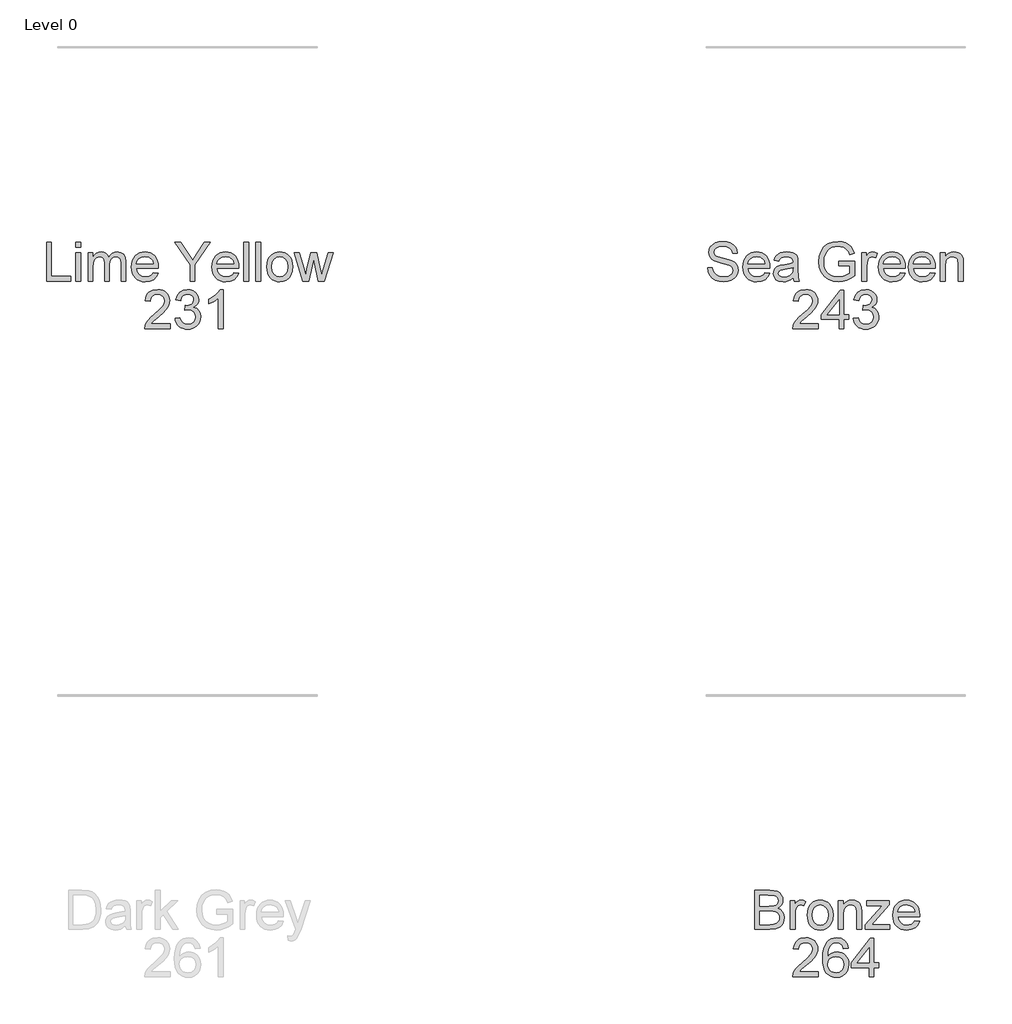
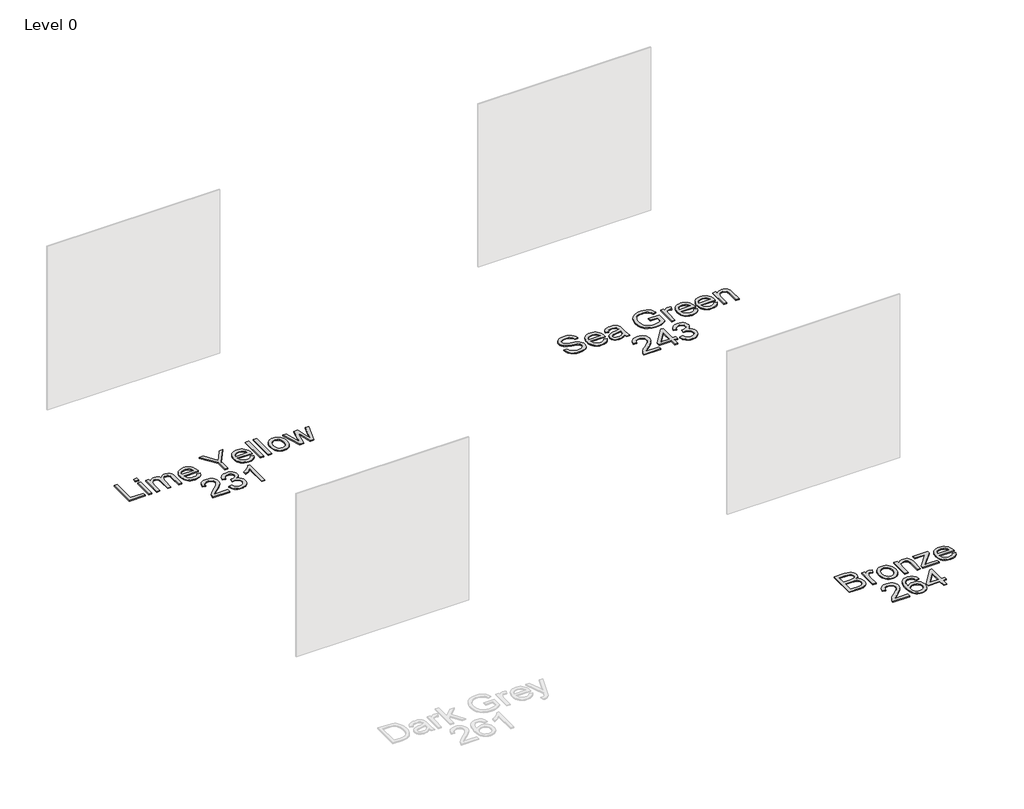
# One storey, part 3 of 15: 3 proxies.
"""IFC4 building model written with IfcOpenShell, lengths in millimetres."""

from ifc_helpers import new_model, si_unit, origin, origin_with_axes, place, context, project, spatial, polyline, outline, extrude, element, save

model = new_model("IFC4")

# Units and contexts
model_context = context("Model", 3, world=origin())
ifc_project = project(units=[si_unit("LENGTHUNIT", "METRE", prefix="MILLI")], contexts=[model_context])

# Site, building, storey
site = spatial("IfcSite", under=ifc_project)
building = spatial("IfcBuilding", under=site)
storey = spatial("IfcBuildingStorey", under=building, Name="Level 0", Elevation=0.0)

# Proxies
placement = place(None, origin())
element("IfcBuildingElementProxy", 1, Name="300mm Arial", ObjectType="300mm Arial", at=placement, inside=storey, context=model_context, shape_type="SweptSolid", body=[
    extrude(outline(polyline([(-10538.4115396, -27011.9454346), (-10538.4115396, -26710.5765041), (-10500.7404233, -26710.5765041), (-10500.7404233, -26974.2743182), (-10350.0559581, -26974.2743182), (-10350.0559581, -27011.9454346), (-10538.4115396, -27011.9454346)])), origin_with_axes(), (0.0, 0.0, 1.0), 10.0),
    extrude(outline(polyline([(-10312.3848418, -27011.9454346), (-10312.3848418, -26790.6276263), (-10274.7137255, -26790.6276263), (-10274.7137255, -27011.9454346), (-10312.3848418, -27011.9454346)])), origin_with_axes(), (0.0, 0.0, 1.0), 10.0),
    extrude(outline(polyline([(-10312.3848418, -26748.2476204), (-10312.3848418, -26710.5765041), (-10274.7137255, -26710.5765041), (-10274.7137255, -26748.2476204), (-10312.3848418, -26748.2476204)])), origin_with_axes(), (0.0, 0.0, 1.0), 10.0),
    extrude(outline(polyline([(-10218.207051, -27011.9454346), (-10218.207051, -26790.6276263), (-10180.5359347, -26790.6276263), (-10180.5359347, -26827.0479438), (-10169.2051693, -26810.31851), (-10154.6370423, -26797.212714), (-10137.3281944, -26788.742231), (-10117.7752664, -26785.9187367), (-10096.8243867, -26788.7974133), (-10080.0305737, -26797.4334432), (-10067.4857976, -26811.2566091), (-10059.2820291, -26829.6966941), (-10045.5508337, -26810.5438378), (-10029.8882577, -26796.8632261), (-10012.2943013, -26788.6548591), (-9992.7689644, -26785.9187367), (-9964.4512478, -26790.4712764), (-9943.5095652, -26804.1288955), (-9930.5693161, -26827.2594759), (-9926.2558997, -26860.2308997), (-9926.2558997, -27011.9454346), (-9963.927016, -27011.9454346), (-9963.927016, -26876.4177075), (-9967.4218949, -26844.9637969), (-9972.3331196, -26836.2909789), (-9980.0770356, -26829.4759649), (-9990.0374406, -26825.061381), (-10001.5981323, -26823.589853), (-10022.006386, -26827.3606435), (-10038.6438492, -26838.6730148), (-10049.7079002, -26858.2995193), (-10053.3959172, -26887.012709), (-10053.3959172, -27011.9454346), (-10091.0670335, -27011.9454346), (-10091.0670335, -26872.2238528), (-10093.2467343, -26850.9234853), (-10099.7858368, -26835.7299589), (-10111.2913462, -26826.6248795), (-10128.3702678, -26823.589853), (-10142.8832125, -26825.613204), (-10156.2557231, -26831.6832569), (-10167.2921829, -26841.652859), (-10174.7969756, -26855.3748574), (-10179.101195, -26874.4127507), (-10180.5359347, -26900.3300372), (-10180.5359347, -27011.9454346), (-10218.207051, -27011.9454346)])), origin_with_axes(), (0.0, 0.0, 1.0), 10.0),
    extrude(outline(polyline([(-9714.7973288, -26946.020981), (-9677.8619765, -26950.7298706), (-9691.1701077, -26978.5601435), (-9712.4060959, -26999.3638703), (-9741.0916944, -27012.3317106), (-9776.7486568, -27016.6543241), (-9800.1229591, -27014.7896222), (-9820.9496786, -27009.1955166), (-9839.2288152, -26999.8720073), (-9854.960369, -26986.8190943), (-9867.6109111, -26970.400061), (-9876.6470126, -26950.9781909), (-9882.0686735, -26928.553484), (-9883.8758938, -26903.1259404), (-9882.0502794, -26876.8361733), (-9876.5734362, -26853.6642061), (-9867.4453642, -26833.6100389), (-9854.6660634, -26816.6736715), (-9838.9758963, -26803.2183875), (-9821.1152255, -26793.6074704), (-9801.0840508, -26787.8409201), (-9778.8823724, -26785.9187367), (-9757.3957646, -26787.8363216), (-9737.9646975, -26793.5890763), (-9720.589171, -26803.1770008), (-9705.2691852, -26816.6000951), (-9692.7634966, -26833.4996743), (-9683.8308619, -26853.5170533), (-9678.4712811, -26876.6522323), (-9676.6847541, -26902.9052112), (-9676.9054833, -26913.0587542), (-9846.2047775, -26913.0587542), (-9839.6840692, -26941.2569092), (-9824.536528, -26961.9870596), (-9802.6751404, -26974.7341707), (-9776.0128928, -26978.9832078), (-9755.9633241, -26977.0150391), (-9739.0775405, -26971.1105331), (-9725.3555421, -26960.9018077), (-9714.7973288, -26946.020981)]), holes=[polyline([(-9846.2047775, -26875.3876379), (-9714.3558705, -26875.3876379), (-9719.4510361, -26855.485222), (-9729.4390323, -26841.2481888), (-9751.4015874, -26828.004437), (-9779.0295252, -26823.589853), (-9804.4225799, -26827.1123231), (-9825.4194448, -26837.6797334), (-9840.015163, -26854.1516498), (-9846.2047775, -26875.3876379)])]), origin_with_axes(), (0.0, 0.0, 1.0), 10.0),
    extrude(outline(polyline([(-9431.8224982, -27011.9454346), (-9431.8224982, -26884.2903822), (-9549.5447366, -26710.5765041), (-9505.1045916, -26710.5765041), (-9442.2703468, -26803.3563433), (-9410.1174604, -26850.6659679), (-9377.8909977, -26799.9718289), (-9320.8692884, -26710.5765041), (-9276.4291434, -26710.5765041), (-9394.1513818, -26884.2903822), (-9394.1513818, -27011.9454346), (-9431.8224982, -27011.9454346)])), origin_with_axes(), (0.0, 0.0, 1.0), 10.0),
    extrude(outline(polyline([(-9093.2239098, -26946.020981), (-9056.2885575, -26950.7298706), (-9069.5966887, -26978.5601435), (-9090.8326768, -26999.3638703), (-9119.5182754, -27012.3317106), (-9155.1752378, -27016.6543241), (-9178.54954, -27014.7896222), (-9199.3762595, -27009.1955166), (-9217.6553961, -26999.8720073), (-9233.38695, -26986.8190943), (-9246.0374921, -26970.400061), (-9255.0735936, -26950.9781909), (-9260.4952545, -26928.553484), (-9262.3024748, -26903.1259404), (-9260.4768604, -26876.8361733), (-9255.0000172, -26853.6642061), (-9245.8719452, -26833.6100389), (-9233.0926444, -26816.6736715), (-9217.4024773, -26803.2183875), (-9199.5418064, -26793.6074704), (-9179.5106318, -26787.8409201), (-9157.3089534, -26785.9187367), (-9135.8223456, -26787.8363216), (-9116.3912784, -26793.5890763), (-9099.015752, -26803.1770008), (-9083.6957661, -26816.6000951), (-9071.1900775, -26833.4996743), (-9062.2574428, -26853.5170533), (-9056.897862, -26876.6522323), (-9055.1113351, -26902.9052112), (-9055.3320643, -26913.0587542), (-9224.6313585, -26913.0587542), (-9218.1106501, -26941.2569092), (-9202.963109, -26961.9870596), (-9181.1017214, -26974.7341707), (-9154.4394738, -26978.9832078), (-9134.3899051, -26977.0150391), (-9117.5041215, -26971.1105331), (-9103.7821231, -26960.9018077), (-9093.2239098, -26946.020981)]), holes=[polyline([(-9224.6313585, -26875.3876379), (-9092.7824514, -26875.3876379), (-9097.877617, -26855.485222), (-9107.8656132, -26841.2481888), (-9129.8281683, -26828.004437), (-9157.4561062, -26823.589853), (-9182.8491609, -26827.1123231), (-9203.8460257, -26837.6797334), (-9218.4417439, -26854.1516498), (-9224.6313585, -26875.3876379)])]), origin_with_axes(), (0.0, 0.0, 1.0), 10.0),
    extrude(outline(polyline([(-9017.4402188, -27011.9454346), (-9017.4402188, -26710.5765041), (-8979.7691025, -26710.5765041), (-8979.7691025, -27011.9454346), (-9017.4402188, -27011.9454346)])), origin_with_axes(), (0.0, 0.0, 1.0), 10.0),
    extrude(outline(polyline([(-8923.262428, -27011.9454346), (-8923.262428, -26710.5765041), (-8885.5913117, -26710.5765041), (-8885.5913117, -27011.9454346), (-8923.262428, -27011.9454346)])), origin_with_axes(), (0.0, 0.0, 1.0), 10.0),
    extrude(outline(polyline([(-8838.5024163, -26901.2865304), (-8836.4652698, -26872.6239245), (-8830.3538301, -26847.925247), (-8820.1680974, -26827.190498), (-8805.9080716, -26810.4196776), (-8791.5514767, -26799.700516), (-8775.7049598, -26792.0439719), (-8758.3685207, -26787.4500455), (-8739.5421596, -26785.9187367), (-8718.7591262, -26787.7834386), (-8699.967254, -26793.3775442), (-8683.1665431, -26802.7010535), (-8668.3569936, -26815.7539665), (-8656.2697708, -26832.0948249), (-8647.6360402, -26851.2821702), (-8642.4558018, -26873.3160025), (-8640.7290557, -26898.1963216), (-8643.7824763, -26936.253714), (-8652.942738, -26965.2244212), (-8667.9431263, -26986.9202618), (-8688.5169269, -27003.1530549), (-8712.9534884, -27013.2790068), (-8739.5421596, -27016.6543241), (-8760.6286957, -27014.79652), (-8779.5953119, -27009.2231078), (-8796.442008, -26999.9340874), (-8811.1687841, -26986.9294589), (-8823.1272482, -26970.4299514), (-8831.6690083, -26950.6562942), (-8836.7940643, -26927.6084872), (-8838.5024163, -26901.2865304)]), holes=[polyline([(-8800.8313, -26901.212954), (-8796.4718984, -26935.3064179), (-8783.3936935, -26959.5958266), (-8763.7120067, -26974.1363625), (-8739.5421596, -26978.9832078), (-8715.4826771, -26974.1087713), (-8695.8377786, -26959.485462), (-8682.7595737, -26934.8741566), (-8678.400172, -26900.0357316), (-8682.7871648, -26866.9355491), (-8695.9481432, -26842.9772342), (-8715.6206329, -26828.4366983), (-8739.5421596, -26823.589853), (-8763.7120067, -26828.4183042), (-8783.3936935, -26842.9036578), (-8796.4718984, -26867.1378842), (-8800.8313, -26901.212954)])]), origin_with_axes(), (0.0, 0.0, 1.0), 10.0),
    extrude(outline(polyline([(-8561.6344268, -27011.9454346), (-8628.9568319, -26790.6276263), (-8589.8141876, -26790.6276263), (-8551.6280365, -26919.7542066), (-8540.2236946, -26965.8866088), (-8530.879492, -26921.4464637), (-8500.4924392, -26790.6276263), (-8455.6108358, -26790.6276263), (-8425.3709357, -26921.0785817), (-8417.0568027, -26961.324872), (-8405.137426, -26918.8712898), (-8366.8776985, -26790.6276263), (-8327.5879014, -26790.6276263), (-8395.4253413, -27011.9454346), (-8440.9691323, -27011.9454346), (-8469.8846572, -26882.1566667), (-8478.2723667, -26841.6896472), (-8515.575601, -27011.9454346), (-8561.6344268, -27011.9454346)])), origin_with_axes(), (0.0, 0.0, 1.0), 10.0),
    extrude(outline(polyline([(-9584.8614081, -27340.1987718), (-9584.8614081, -27377.8698881), (-9782.6347688, -27377.8698881), (-9778.5880668, -27351.8974192), (-9769.2990464, -27331.5995301), (-9755.7058067, -27311.9086464), (-9736.0425141, -27291.2980576), (-9708.5433349, -27268.2410535), (-9667.8923745, -27232.1334357), (-9643.5017982, -27205.4803851), (-9631.30651, -27183.8489238), (-9627.241414, -27162.8060737), (-9631.0765838, -27143.9429244), (-9642.5820932, -27128.2619544), (-9660.2680201, -27117.694544), (-9682.6444425, -27114.1720739), (-9706.1429049, -27117.6117706), (-9724.3990489, -27127.9308606), (-9736.1804698, -27144.3200034), (-9740.2547629, -27165.9698589), (-9777.9258792, -27161.2609693), (-9768.7932087, -27124.8222577), (-9760.2468501, -27110.2863204), (-9749.0471426, -27098.2059954), (-9735.4516036, -27088.7100414), (-9719.7177505, -27081.9272171), (-9681.8351021, -27076.5009576), (-9661.6452783, -27078.0092738), (-9643.6765421, -27082.5342224), (-9627.9288935, -27090.0758033), (-9614.4023324, -27100.6340165), (-9603.5383172, -27113.4271129), (-9595.7783064, -27127.6733432), (-9591.1222999, -27143.3727073), (-9589.5702977, -27160.5252053), (-9591.2441608, -27178.5422261), (-9596.26575, -27196.2465471), (-9605.1776913, -27214.2543707), (-9618.5226107, -27233.1818994), (-9639.7953871, -27255.7790509), (-9672.4908994, -27284.7957433), (-9715.8273984, -27321.0321198), (-9732.8235466, -27340.1987718), (-9584.8614081, -27340.1987718)])), origin_with_axes(), (0.0, 0.0, 1.0), 10.0),
    extrude(outline(polyline([(-9547.1902918, -27297.8187659), (-9509.5191755, -27293.1098764), (-9501.0854808, -27316.7830828), (-9488.7338428, -27332.7675555), (-9471.8572563, -27341.8726349), (-9449.8487159, -27344.9076613), (-9424.0233999, -27340.7322007), (-9404.0841957, -27328.2058187), (-9391.3370846, -27309.5174134), (-9387.0880475, -27286.8558825), (-9391.3002964, -27265.3439828), (-9403.9370429, -27247.8971792), (-9423.0669067, -27236.3364875), (-9446.7585072, -27232.4829236), (-9473.1724344, -27236.6032019), (-9468.9785797, -27198.9320856), (-9462.9453149, -27199.373544), (-9440.3757545, -27196.6696114), (-9420.1974271, -27188.5578134), (-9405.9603939, -27174.8358149), (-9401.2147162, -27155.301281), (-9404.6544128, -27139.0316998), (-9414.9735028, -27125.8339332), (-9430.7188522, -27117.0875388), (-9450.4373271, -27114.1720739), (-9470.1925903, -27117.1151299), (-9486.3426098, -27125.9442978), (-9498.1332278, -27140.6595776), (-9504.810286, -27161.2609693), (-9542.4814023, -27156.5520798), (-9531.3897601, -27122.7253303), (-9511.6528911, -27097.4702314), (-9484.6503527, -27081.7432761), (-9451.7617023, -27076.5009576), (-9428.0792989, -27079.0853287), (-9406.3282759, -27086.8384417), (-9387.9893584, -27099.070518), (-9374.5432715, -27115.0917789), (-9366.2935178, -27133.550258), (-9363.5435998, -27153.093989), (-9366.155562, -27171.3041478), (-9373.9914485, -27187.8220494), (-9386.9408947, -27201.8935357), (-9404.8935361, -27212.7644487), (-9381.3123002, -27222.2925923), (-9363.8379054, -27238.5161883), (-9353.0221748, -27260.5523198), (-9349.4169312, -27287.5180701), (-9351.219553, -27306.6295397), (-9356.6274183, -27324.2326932), (-9365.6405272, -27340.3275305), (-9378.2588797, -27354.9140516), (-9393.6317485, -27367.0173692), (-9410.9084067, -27375.6625961), (-9430.0888543, -27380.8497322), (-9451.1730911, -27382.5787776), (-9470.2293785, -27381.1026511), (-9487.5934086, -27376.6742716), (-9503.2651816, -27369.2936391), (-9517.2446974, -27358.9607535), (-9528.9663375, -27346.2826203), (-9537.8644833, -27331.8662446), (-9543.9391347, -27315.7116265), (-9547.1902918, -27297.8187659)])), origin_with_axes(), (0.0, 0.0, 1.0), 10.0),
    extrude(outline(polyline([(-9175.1880183, -27377.8698881), (-9212.8591346, -27377.8698881), (-9212.8591346, -27143.0140224), (-9248.5436882, -27168.4346682), (-9288.2013672, -27187.4541674), (-9288.2013672, -27151.8431903), (-9258.6144578, -27135.748353), (-9232.9822798, -27116.6000951), (-9212.7763612, -27096.2378267), (-9199.46823, -27076.5009576), (-9175.1880183, -27076.5009576), (-9175.1880183, -27377.8698881)])), origin_with_axes(), (0.0, 0.0, 1.0), 10.0),
])
element("IfcBuildingElementProxy", 2, Name="300mm Arial", ObjectType="300mm Arial", at=placement, inside=storey, context=model_context, shape_type="SweptSolid", body=[
    extrude(outline(polyline([(-5439.5248593, -26908.3498647), (-5401.853743, -26908.3498647), (-5397.5311296, -26929.2547591), (-5389.7136372, -26946.0577692), (-5377.5183491, -26959.3934915), (-5360.0623484, -26969.8965225), (-5338.7251927, -26976.7115365), (-5314.8864394, -26978.9832078), (-5293.8987716, -26977.2633595), (-5275.5230659, -26972.1038145), (-5260.6330421, -26963.9368342), (-5250.10242, -26953.1946799), (-5243.8392291, -26940.861436), (-5241.7514987, -26927.9211869), (-5243.3149972, -26915.3120315), (-5248.0054927, -26904.4135274), (-5257.5336363, -26895.1153099), (-5273.6100795, -26887.3070146), (-5328.461285, -26872.9228286), (-5364.4677353, -26863.4038819), (-5387.5063452, -26854.3447878), (-5406.2591299, -26841.6712531), (-5419.548867, -26826.3121798), (-5427.467527, -26808.5986617), (-5430.1070803, -26788.8617927), (-5426.8421276, -26766.79807), (-5417.0472694, -26746.2242694), (-5400.9800233, -26728.7866629), (-5378.8979065, -26716.1315222), (-5352.3920088, -26708.4335915), (-5323.0534197, -26705.8676146), (-5291.2684153, -26708.5531531), (-5263.4565365, -26716.6097688), (-5240.6110646, -26729.8719147), (-5223.725281, -26748.174044), (-5213.038309, -26770.3757224), (-5208.789272, -26795.3365158), (-5246.4603883, -26795.3365158), (-5253.3765698, -26772.8589259), (-5267.797544, -26756.6353299), (-5290.3303162, -26746.8128806), (-5321.5818917, -26743.5387309), (-5353.5692312, -26746.7760924), (-5375.5133922, -26756.4881771), (-5388.205321, -26770.7803926), (-5392.435964, -26787.7581467), (-5389.4377257, -26802.2343032), (-5380.4430109, -26813.8777683), (-5359.1794316, -26824.2888288), (-5318.9331413, -26834.9206185), (-5277.3992641, -26845.0189792), (-5252.2729238, -26853.829753), (-5230.7978123, -26867.4965691), (-5215.8158181, -26884.3639586), (-5207.0142413, -26904.2479805), (-5204.0803824, -26926.9646937), (-5207.4556997, -26950.1872446), (-5217.5816517, -26972.0302381), (-5234.0443709, -26990.829008), (-5256.4299903, -27004.9188884), (-5283.3497553, -27013.7204652), (-5313.4149114, -27016.6543241), (-5350.3226726, -27013.4905389), (-5380.7005283, -27003.9991835), (-5404.8979665, -26988.1434695), (-5423.2644752, -26965.8866088), (-5435.0550931, -26938.7737057), (-5439.5248593, -26908.3498647)])), origin_with_axes(), (0.0, 0.0, 1.0), 10.0),
    extrude(outline(polyline([(-4997.3307011, -26946.020981), (-4960.3953488, -26950.7298706), (-4973.70348, -26978.5601435), (-4994.9394682, -26999.3638703), (-5023.6250667, -27012.3317106), (-5059.2820291, -27016.6543241), (-5082.6563314, -27014.7896222), (-5103.4830508, -27009.1955166), (-5121.7621875, -26999.8720073), (-5137.4937413, -26986.8190943), (-5150.1442834, -26970.400061), (-5159.1803849, -26950.9781909), (-5164.6020458, -26928.553484), (-5166.4092661, -26903.1259404), (-5164.5836517, -26876.8361733), (-5159.1068085, -26853.6642061), (-5149.9787365, -26833.6100389), (-5137.1994357, -26816.6736715), (-5121.5092686, -26803.2183875), (-5103.6485977, -26793.6074704), (-5083.6174231, -26787.8409201), (-5061.4157447, -26785.9187367), (-5039.9291369, -26787.8363216), (-5020.4980698, -26793.5890763), (-5003.1225433, -26803.1770008), (-4987.8025575, -26816.6000951), (-4975.2968689, -26833.4996743), (-4966.3642342, -26853.5170533), (-4961.0046534, -26876.6522323), (-4959.2181264, -26902.9052112), (-4959.4388556, -26913.0587542), (-5128.7381498, -26913.0587542), (-5122.2174415, -26941.2569092), (-5107.0699003, -26961.9870596), (-5085.2085127, -26974.7341707), (-5058.5462651, -26978.9832078), (-5038.4966964, -26977.0150391), (-5021.6109128, -26971.1105331), (-5007.8889144, -26960.9018077), (-4997.3307011, -26946.020981)]), holes=[polyline([(-5128.7381498, -26875.3876379), (-4996.8892427, -26875.3876379), (-5001.9844084, -26855.485222), (-5011.9724045, -26841.2481888), (-5033.9349597, -26828.004437), (-5061.5628975, -26823.589853), (-5086.9559522, -26827.1123231), (-5107.9528171, -26837.6797334), (-5122.5485352, -26854.1516498), (-5128.7381498, -26875.3876379)])]), origin_with_axes(), (0.0, 0.0, 1.0), 10.0),
    extrude(outline(polyline([(-4780.280324, -26983.6920973), (-4798.2789506, -26999.124747), (-4816.8110061, -27009.2231078), (-4836.2995548, -27014.79652), (-4857.167661, -27016.6543241), (-4888.6491627, -27012.1845578), (-4911.8717137, -26998.7752591), (-4926.1915203, -26978.4129907), (-4930.9647892, -26953.0843153), (-4929.1621674, -26937.4677246), (-4923.7543021, -26923.2858737), (-4915.4125779, -26911.1457679), (-4904.8083794, -26901.6544124), (-4878.4312403, -26889.2935774), (-4845.8368955, -26883.6281946), (-4807.3196506, -26877.6685063), (-4780.5010532, -26870.6787484), (-4780.280324, -26862.2910389), (-4782.8738921, -26845.4788317), (-4790.6545962, -26834.4791601), (-4808.0554146, -26826.3121798), (-4832.2988381, -26823.589853), (-4854.7396398, -26825.4016718), (-4870.4114128, -26830.8371283), (-4881.0983848, -26840.8895038), (-4888.5847834, -26856.5520798), (-4926.2558997, -26851.8431903), (-4919.7167972, -26831.2417985), (-4909.9587273, -26815.0549907), (-4896.071182, -26802.6757616), (-4877.1436533, -26793.4971058), (-4853.9946788, -26787.813329), (-4827.4427958, -26785.9187367), (-4801.9761647, -26787.5925998), (-4781.7886402, -26792.614189), (-4766.5675226, -26800.164967), (-4756.0001123, -26809.4263962), (-4748.9919603, -26820.8767233), (-4744.4486177, -26834.9941949), (-4742.6092077, -26867.9564216), (-4742.6092077, -26914.8245878), (-4740.6962213, -26980.2707948), (-4733.1914286, -27011.9454346), (-4770.8625449, -27011.9454346), (-4780.280324, -26983.6920973)]), holes=[polyline([(-4780.280324, -26908.3498647), (-4841.0544296, -26919.9013594), (-4873.4648334, -26926.0082005), (-4888.143325, -26935.9410143), (-4893.2936729, -26950.435565), (-4890.4885727, -26961.6375717), (-4882.0732721, -26970.8162275), (-4868.231712, -26976.9414627), (-4849.1478335, -26978.9832078), (-4828.9143237, -26976.7299306), (-4811.0352588, -26969.9700989), (-4796.5407082, -26960.0096939), (-4786.4607415, -26948.1546966), (-4781.9909753, -26935.9410143), (-4780.5010532, -26919.0184426), (-4780.280324, -26908.3498647)])]), origin_with_axes(), (0.0, 0.0, 1.0), 10.0),
    extrude(outline(polyline([(-4427.1136086, -26894.2231961), (-4427.1136086, -26856.5520798), (-4304.6824806, -26856.5520798), (-4304.6824806, -26969.1975467), (-4334.434937, -26989.8909089), (-4365.1254924, -27004.7349474), (-4396.6805706, -27013.6744799), (-4429.026595, -27016.6543241), (-4471.2870392, -27011.9178434), (-4509.4823873, -26997.7084013), (-4541.2122094, -26974.5226386), (-4564.0760754, -26942.8571959), (-4577.8992414, -26904.8733799), (-4582.5069634, -26862.7324973), (-4577.9176355, -26820.2881121), (-4564.1496518, -26780.805177), (-4541.7732295, -26747.6866004), (-4511.3585855, -26724.3352907), (-4474.3128686, -26710.4845336), (-4432.0432274, -26705.8676146), (-4401.0123811, -26708.5439561), (-4373.1085317, -26716.5729806), (-4349.6100693, -26729.3752741), (-4331.7953837, -26746.3714222), (-4318.6160112, -26768.3799626), (-4309.0234882, -26796.2194326), (-4343.7515485, -26806.0050937), (-4351.5046616, -26786.148663), (-4360.9316377, -26771.1666687), (-4373.4028373, -26759.8726915), (-4390.2886209, -26751.0803118), (-4410.4209631, -26745.4241261), (-4432.6318385, -26743.5387309), (-4458.6318986, -26745.5712789), (-4480.8611681, -26751.668923), (-4499.2368738, -26761.0683079), (-4513.6762421, -26773.0060787), (-4533.0636232, -26802.0319681), (-4541.8927911, -26830.4692463), (-4544.8358471, -26861.1873929), (-4541.2949829, -26897.2122373), (-4530.6723903, -26926.8543291), (-4513.289966, -26949.9021361), (-4489.4696068, -26966.1441262), (-4461.5933486, -26975.7734374), (-4432.0432274, -26978.9832078), (-4405.9511968, -26976.5643837), (-4380.5029598, -26969.3079113), (-4358.402449, -26959.3107181), (-4342.3535969, -26948.6697314), (-4342.3535969, -26894.2231961), (-4427.1136086, -26894.2231961)])), origin_with_axes(), (0.0, 0.0, 1.0), 10.0),
    extrude(outline(polyline([(-4248.1758062, -27011.9454346), (-4248.1758062, -26790.6276263), (-4215.2135794, -26790.6276263), (-4215.2135794, -26823.3691238), (-4203.0366854, -26804.3864129), (-4191.8162845, -26793.2028002), (-4180.5590954, -26787.7397526), (-4168.2718368, -26785.9187367), (-4149.5098551, -26788.8250045), (-4130.4535677, -26797.5438078), (-4143.0351319, -26831.3153749), (-4156.2788838, -26825.5212335), (-4169.5226356, -26823.589853), (-4180.7706276, -26825.4476571), (-4190.8230031, -26831.0210693), (-4198.9439982, -26839.8870254), (-4204.3978487, -26851.6224611), (-4208.9779796, -26872.6653112), (-4210.5046899, -26895.6211477), (-4210.5046899, -27011.9454346), (-4248.1758062, -27011.9454346)])), origin_with_axes(), (0.0, 0.0, 1.0), 10.0),
    extrude(outline(polyline([(-3951.9572236, -26946.020981), (-3915.0218713, -26950.7298706), (-3928.3300025, -26978.5601435), (-3949.5659907, -26999.3638703), (-3978.2515893, -27012.3317106), (-4013.9085516, -27016.6543241), (-4037.2828539, -27014.7896222), (-4058.1095734, -27009.1955166), (-4076.38871, -26999.8720073), (-4092.1202638, -26986.8190943), (-4104.7708059, -26970.400061), (-4113.8069074, -26950.9781909), (-4119.2285683, -26928.553484), (-4121.0357886, -26903.1259404), (-4119.2101742, -26876.8361733), (-4113.733331, -26853.6642061), (-4104.605259, -26833.6100389), (-4091.8259582, -26816.6736715), (-4076.1357911, -26803.2183875), (-4058.2751203, -26793.6074704), (-4038.2439456, -26787.8409201), (-4016.0422672, -26785.9187367), (-3994.5556594, -26787.8363216), (-3975.1245923, -26793.5890763), (-3957.7490658, -26803.1770008), (-3942.42908, -26816.6000951), (-3929.9233914, -26833.4996743), (-3920.9907567, -26853.5170533), (-3915.6311759, -26876.6522323), (-3913.8446489, -26902.9052112), (-3914.0653781, -26913.0587542), (-4083.3646723, -26913.0587542), (-4076.843964, -26941.2569092), (-4061.6964228, -26961.9870596), (-4039.8350352, -26974.7341707), (-4013.1727876, -26978.9832078), (-3993.1232189, -26977.0150391), (-3976.2374353, -26971.1105331), (-3962.5154369, -26960.9018077), (-3951.9572236, -26946.020981)]), holes=[polyline([(-4083.3646723, -26875.3876379), (-3951.5157653, -26875.3876379), (-3956.6109309, -26855.485222), (-3966.5989271, -26841.2481888), (-3988.5614822, -26828.004437), (-4016.18942, -26823.589853), (-4041.5824747, -26827.1123231), (-4062.5793396, -26837.6797334), (-4077.1750578, -26854.1516498), (-4083.3646723, -26875.3876379)])]), origin_with_axes(), (0.0, 0.0, 1.0), 10.0),
    extrude(outline(polyline([(-3721.2216363, -26946.020981), (-3684.286284, -26950.7298706), (-3697.5944151, -26978.5601435), (-3718.8304033, -26999.3638703), (-3747.5160019, -27012.3317106), (-3783.1729643, -27016.6543241), (-3806.5472665, -27014.7896222), (-3827.373986, -27009.1955166), (-3845.6531226, -26999.8720073), (-3861.3846764, -26986.8190943), (-3874.0352185, -26970.400061), (-3883.07132, -26950.9781909), (-3888.492981, -26928.553484), (-3890.3002013, -26903.1259404), (-3888.4745869, -26876.8361733), (-3882.9977436, -26853.6642061), (-3873.8696716, -26833.6100389), (-3861.0903708, -26816.6736715), (-3845.4002037, -26803.2183875), (-3827.5395329, -26793.6074704), (-3807.5083582, -26787.8409201), (-3785.3066798, -26785.9187367), (-3763.820072, -26787.8363216), (-3744.3890049, -26793.5890763), (-3727.0134784, -26803.1770008), (-3711.6934926, -26816.6000951), (-3699.187804, -26833.4996743), (-3690.2551693, -26853.5170533), (-3684.8955885, -26876.6522323), (-3683.1090616, -26902.9052112), (-3683.3297908, -26913.0587542), (-3852.6290849, -26913.0587542), (-3846.1083766, -26941.2569092), (-3830.9608354, -26961.9870596), (-3809.0994479, -26974.7341707), (-3782.4372003, -26978.9832078), (-3762.3876315, -26977.0150391), (-3745.501848, -26971.1105331), (-3731.7798495, -26960.9018077), (-3721.2216363, -26946.020981)]), holes=[polyline([(-3852.6290849, -26875.3876379), (-3720.7801779, -26875.3876379), (-3725.8753435, -26855.485222), (-3735.8633397, -26841.2481888), (-3757.8258948, -26828.004437), (-3785.4538326, -26823.589853), (-3810.8468873, -26827.1123231), (-3831.8437522, -26837.6797334), (-3846.4394704, -26854.1516498), (-3852.6290849, -26875.3876379)])]), origin_with_axes(), (0.0, 0.0, 1.0), 10.0),
    extrude(outline(polyline([(-3645.4379453, -27011.9454346), (-3645.4379453, -26790.6276263), (-3607.766829, -26790.6276263), (-3607.766829, -26821.5297138), (-3594.679427, -26805.9499114), (-3578.9616687, -26794.821481), (-3560.6135542, -26788.1444228), (-3539.6350835, -26785.9187367), (-3521.0662397, -26787.7121614), (-3504.0608945, -26793.0924356), (-3489.8790436, -26801.3881746), (-3479.7806828, -26811.9279938), (-3468.4867056, -26839.629508), (-3466.5001428, -26876.0498255), (-3466.5001428, -27011.9454346), (-3504.1712591, -27011.9454346), (-3504.1712591, -26881.1265971), (-3508.5122667, -26847.7964883), (-3514.5179402, -26837.8728715), (-3523.8529459, -26830.1749407), (-3535.8183078, -26825.2361249), (-3549.7150501, -26823.589853), (-3571.7787728, -26827.2870671), (-3590.5867398, -26838.3787092), (-3598.1030288, -26847.4332048), (-3603.4718067, -26859.8078354), (-3607.766829, -26894.5175017), (-3607.766829, -27011.9454346), (-3645.4379453, -27011.9454346)])), origin_with_axes(), (0.0, 0.0, 1.0), 10.0),
    extrude(outline(polyline([(-4584.8614081, -27340.1987718), (-4584.8614081, -27377.8698881), (-4782.6347688, -27377.8698881), (-4778.5880668, -27351.8974192), (-4769.2990464, -27331.5995301), (-4755.7058067, -27311.9086464), (-4736.0425141, -27291.2980576), (-4708.5433349, -27268.2410535), (-4667.8923745, -27232.1334357), (-4643.5017982, -27205.4803851), (-4631.30651, -27183.8489238), (-4627.241414, -27162.8060737), (-4631.0765838, -27143.9429244), (-4642.5820932, -27128.2619544), (-4660.2680201, -27117.694544), (-4682.6444425, -27114.1720739), (-4706.1429049, -27117.6117706), (-4724.3990489, -27127.9308606), (-4736.1804698, -27144.3200034), (-4740.2547629, -27165.9698589), (-4777.9258792, -27161.2609693), (-4768.7932087, -27124.8222577), (-4760.2468501, -27110.2863204), (-4749.0471426, -27098.2059954), (-4735.4516036, -27088.7100414), (-4719.7177505, -27081.9272171), (-4681.8351021, -27076.5009576), (-4661.6452783, -27078.0092738), (-4643.6765421, -27082.5342224), (-4627.9288935, -27090.0758033), (-4614.4023324, -27100.6340165), (-4603.5383172, -27113.4271129), (-4595.7783064, -27127.6733432), (-4591.1222999, -27143.3727073), (-4589.5702977, -27160.5252053), (-4591.2441608, -27178.5422261), (-4596.26575, -27196.2465471), (-4605.1776913, -27214.2543707), (-4618.5226107, -27233.1818994), (-4639.7953871, -27255.7790509), (-4672.4908994, -27284.7957433), (-4715.8273984, -27321.0321198), (-4732.8235466, -27340.1987718), (-4584.8614081, -27340.1987718)])), origin_with_axes(), (0.0, 0.0, 1.0), 10.0),
    extrude(outline(polyline([(-4424.7591638, -27377.8698881), (-4424.7591638, -27307.236545), (-4561.3169605, -27307.236545), (-4561.3169605, -27269.5654287), (-4415.3413848, -27081.2098472), (-4387.0880475, -27081.2098472), (-4387.0880475, -27269.5654287), (-4349.4169312, -27269.5654287), (-4349.4169312, -27307.236545), (-4387.0880475, -27307.236545), (-4387.0880475, -27377.8698881), (-4424.7591638, -27377.8698881)]), holes=[polyline([(-4424.7591638, -27269.5654287), (-4424.7591638, -27153.1675654), (-4514.9638291, -27269.5654287), (-4424.7591638, -27269.5654287)])]), origin_with_axes(), (0.0, 0.0, 1.0), 10.0),
    extrude(outline(polyline([(-4316.4547045, -27297.8187659), (-4278.7835882, -27293.1098764), (-4270.3498934, -27316.7830828), (-4257.9982554, -27332.7675555), (-4241.1216689, -27341.8726349), (-4219.1131285, -27344.9076613), (-4193.2878125, -27340.7322007), (-4173.3486083, -27328.2058187), (-4160.6014972, -27309.5174134), (-4156.3524602, -27286.8558825), (-4160.564709, -27265.3439828), (-4173.2014555, -27247.8971792), (-4192.3313193, -27236.3364875), (-4216.0229198, -27232.4829236), (-4242.436847, -27236.6032019), (-4238.2429923, -27198.9320856), (-4232.2097276, -27199.373544), (-4209.6401672, -27196.6696114), (-4189.4618397, -27188.5578134), (-4175.2248065, -27174.8358149), (-4170.4791288, -27155.301281), (-4173.9188254, -27139.0316998), (-4184.2379154, -27125.8339332), (-4199.9832648, -27117.0875388), (-4219.7017397, -27114.1720739), (-4239.4570029, -27117.1151299), (-4255.6070225, -27125.9442978), (-4267.3976404, -27140.6595776), (-4274.0746986, -27161.2609693), (-4311.7458149, -27156.5520798), (-4300.6541728, -27122.7253303), (-4280.9173037, -27097.4702314), (-4253.9147653, -27081.7432761), (-4221.0261149, -27076.5009576), (-4197.3437115, -27079.0853287), (-4175.5926885, -27086.8384417), (-4157.2537711, -27099.070518), (-4143.8076841, -27115.0917789), (-4135.5579304, -27133.550258), (-4132.8080125, -27153.093989), (-4135.4199746, -27171.3041478), (-4143.2558611, -27187.8220494), (-4156.2053074, -27201.8935357), (-4174.1579487, -27212.7644487), (-4150.5767128, -27222.2925923), (-4133.1023181, -27238.5161883), (-4122.2865874, -27260.5523198), (-4118.6813439, -27287.5180701), (-4120.4839656, -27306.6295397), (-4125.891831, -27324.2326932), (-4134.9049398, -27340.3275305), (-4147.5232923, -27354.9140516), (-4162.8961612, -27367.0173692), (-4180.1728194, -27375.6625961), (-4199.3532669, -27380.8497322), (-4220.4375037, -27382.5787776), (-4239.4937911, -27381.1026511), (-4256.8578212, -27376.6742716), (-4272.5295942, -27369.2936391), (-4286.5091101, -27358.9607535), (-4298.2307501, -27346.2826203), (-4307.1288959, -27331.8662446), (-4313.2035473, -27315.7116265), (-4316.4547045, -27297.8187659)])), origin_with_axes(), (0.0, 0.0, 1.0), 10.0),
])
element("IfcBuildingElementProxy", 3, Name="300mm Arial", ObjectType="300mm Arial", at=placement, inside=storey, context=model_context, shape_type="SweptSolid", body=[
    extrude(outline(polyline([(-5074.5859201, -32011.9454346), (-5074.5859201, -31710.5765041), (-4959.5860084, -31710.5765041), (-4927.9573539, -31712.7929931), (-4903.263275, -31719.4424602), (-4884.3357463, -31730.6904522), (-4870.0067426, -31746.702516), (-4860.9844367, -31765.5380742), (-4857.9770014, -31785.2565491), (-4860.5061901, -31803.4023285), (-4868.0937562, -31820.4628561), (-4880.7948821, -31835.389668), (-4898.66475, -31847.1343007), (-4877.3183973, -31858.2811252), (-4861.5454567, -31875.2404851), (-4851.8057809, -31896.8903406), (-4848.5592223, -31922.1086513), (-4850.7757113, -31943.1239103), (-4857.4251784, -31962.612459), (-4867.3487952, -31979.1855429), (-4879.3877335, -31991.4544074), (-4894.1306044, -32000.3387576), (-4912.1660193, -32006.7582984), (-4960.4689252, -32011.9454346), (-5074.5859201, -32011.9454346)]), holes=[polyline([(-5036.9148038, -31833.0076321), (-4968.1208707, -31833.0076321), (-4927.9481568, -31829.7702705), (-4913.8858676, -31824.1876613), (-4903.7783098, -31815.8275429), (-4897.6806657, -31804.8186742), (-4895.6481177, -31791.2898138), (-4897.5427099, -31778.1564266), (-4903.2264868, -31766.7152966), (-4912.4419308, -31757.7849611), (-4924.9315245, -31752.1839578), (-4973.3447951, -31748.2476204), (-5036.9148038, -31748.2476204), (-5036.9148038, -31833.0076321)]), polyline([(-5036.9148038, -31974.2743182), (-4959.6595848, -31974.2743182), (-4931.7005532, -31972.8027903), (-4908.0457409, -31964.5990218), (-4892.3739679, -31947.860391), (-4887.7662459, -31936.0329848), (-4886.2303386, -31922.4765333), (-4888.0329604, -31906.7311839), (-4893.4408257, -31893.1931265), (-4902.8861959, -31882.6073221), (-4916.8013324, -31875.7187317), (-4936.5106103, -31871.9387442), (-4963.3384048, -31870.6787484), (-5036.9148038, -31870.6787484), (-5036.9148038, -31974.2743182)])]), origin_with_axes(), (0.0, 0.0, 1.0), 10.0),
    extrude(outline(polyline([(-4801.4703269, -32011.9454346), (-4801.4703269, -31790.6276263), (-4768.5081001, -31790.6276263), (-4768.5081001, -31823.3691238), (-4756.3312061, -31804.3864129), (-4745.1108052, -31793.2028002), (-4733.8536162, -31787.7397526), (-4721.5663576, -31785.9187367), (-4702.8043758, -31788.8250045), (-4683.7480885, -31797.5438078), (-4696.3296527, -31831.3153749), (-4709.5734045, -31825.5212335), (-4722.8171563, -31823.589853), (-4734.0651483, -31825.4476571), (-4744.1175239, -31831.0210693), (-4752.2385189, -31839.8870254), (-4757.6923695, -31851.6224611), (-4762.2725003, -31872.6653112), (-4763.7992106, -31895.6211477), (-4763.7992106, -32011.9454346), (-4801.4703269, -32011.9454346)])), origin_with_axes(), (0.0, 0.0, 1.0), 10.0),
    extrude(outline(polyline([(-4669.6214198, -31901.2865304), (-4667.5842733, -31872.6239245), (-4661.4728336, -31847.925247), (-4651.2871009, -31827.190498), (-4637.0270751, -31810.4196776), (-4622.6704802, -31799.700516), (-4606.8239633, -31792.0439719), (-4589.4875242, -31787.4500455), (-4570.6611631, -31785.9187367), (-4549.8781297, -31787.7834386), (-4531.0862575, -31793.3775442), (-4514.2855466, -31802.7010535), (-4499.4759971, -31815.7539665), (-4487.3887743, -31832.0948249), (-4478.7550437, -31851.2821702), (-4473.5748053, -31873.3160025), (-4471.8480592, -31898.1963216), (-4474.9014798, -31936.253714), (-4484.0617415, -31965.2244212), (-4499.0621298, -31986.9202618), (-4519.6359304, -32003.1530549), (-4544.0724919, -32013.2790068), (-4570.6611631, -32016.6543241), (-4591.7476992, -32014.79652), (-4610.7143154, -32009.2231078), (-4627.5610115, -31999.9340874), (-4642.2877876, -31986.9294589), (-4654.2462517, -31970.4299514), (-4662.7880118, -31950.6562942), (-4667.9130678, -31927.6084872), (-4669.6214198, -31901.2865304)]), holes=[polyline([(-4631.9503035, -31901.212954), (-4627.5909019, -31935.3064179), (-4614.512697, -31959.5958266), (-4594.8310102, -31974.1363625), (-4570.6611631, -31978.9832078), (-4546.6016806, -31974.1087713), (-4526.9567821, -31959.485462), (-4513.8785772, -31934.8741566), (-4509.5191755, -31900.0357316), (-4513.9061683, -31866.9355491), (-4527.0671467, -31842.9772342), (-4546.7396364, -31828.4366983), (-4570.6611631, -31823.589853), (-4594.8310102, -31828.4183042), (-4614.512697, -31842.9036578), (-4627.5909019, -31867.1378842), (-4631.9503035, -31901.212954)])]), origin_with_axes(), (0.0, 0.0, 1.0), 10.0),
    extrude(outline(polyline([(-4429.4680534, -32011.9454346), (-4429.4680534, -31790.6276263), (-4391.7969371, -31790.6276263), (-4391.7969371, -31821.5297138), (-4378.7095351, -31805.9499114), (-4362.9917769, -31794.821481), (-4344.6436623, -31788.1444228), (-4323.6651916, -31785.9187367), (-4305.0963479, -31787.7121614), (-4288.0910026, -31793.0924356), (-4273.9091517, -31801.3881746), (-4263.810791, -31811.9279938), (-4252.5168137, -31839.629508), (-4250.5302509, -31876.0498255), (-4250.5302509, -32011.9454346), (-4288.2013672, -32011.9454346), (-4288.2013672, -31881.1265971), (-4292.5423748, -31847.7964883), (-4298.5480484, -31837.8728715), (-4307.883054, -31830.1749407), (-4319.8484159, -31825.2361249), (-4333.7451582, -31823.589853), (-4355.8088809, -31827.2870671), (-4374.6168479, -31838.3787092), (-4382.1331369, -31847.4332048), (-4387.5019148, -31859.8078354), (-4391.7969371, -31894.5175017), (-4391.7969371, -32011.9454346), (-4429.4680534, -32011.9454346)])), origin_with_axes(), (0.0, 0.0, 1.0), 10.0),
    extrude(outline(polyline([(-4222.2769137, -32011.9454346), (-4222.2769137, -31976.4816102), (-4092.2674166, -31828.2987426), (-4130.7478733, -31828.2987426), (-4212.8591346, -31828.2987426), (-4212.8591346, -31790.6276263), (-4038.6302217, -31790.6276263), (-4038.6302217, -31822.6333598), (-4153.924439, -31954.1143849), (-4171.5827748, -31974.2743182), (-4128.0255465, -31974.2743182), (-4033.9213322, -31974.2743182), (-4033.9213322, -32011.9454346), (-4222.2769137, -32011.9454346)])), origin_with_axes(), (0.0, 0.0, 1.0), 10.0),
    extrude(outline(polyline([(-3841.2983195, -31946.020981), (-3804.3629672, -31950.7298706), (-3817.6710984, -31978.5601435), (-3838.9070865, -31999.3638703), (-3867.5926851, -32012.3317106), (-3903.2496475, -32016.6543241), (-3926.6239498, -32014.7896222), (-3947.4506692, -32009.1955166), (-3965.7298058, -31999.8720073), (-3981.4613597, -31986.8190943), (-3994.1119018, -31970.400061), (-4003.1480033, -31950.9781909), (-4008.5696642, -31928.553484), (-4010.3768845, -31903.1259404), (-4008.5512701, -31876.8361733), (-4003.0744269, -31853.6642061), (-3993.9463549, -31833.6100389), (-3981.1670541, -31816.6736715), (-3965.476887, -31803.2183875), (-3947.6162161, -31793.6074704), (-3927.5850415, -31787.8409201), (-3905.3833631, -31785.9187367), (-3883.8967553, -31787.8363216), (-3864.4656881, -31793.5890763), (-3847.0901617, -31803.1770008), (-3831.7701758, -31816.6000951), (-3819.2644872, -31833.4996743), (-3810.3318526, -31853.5170533), (-3804.9722717, -31876.6522323), (-3803.1857448, -31902.9052112), (-3803.406474, -31913.0587542), (-3972.7057682, -31913.0587542), (-3966.1850598, -31941.2569092), (-3951.0375187, -31961.9870596), (-3929.1761311, -31974.7341707), (-3902.5138835, -31978.9832078), (-3882.4643148, -31977.0150391), (-3865.5785312, -31971.1105331), (-3851.8565328, -31960.9018077), (-3841.2983195, -31946.020981)]), holes=[polyline([(-3972.7057682, -31875.3876379), (-3840.8568611, -31875.3876379), (-3845.9520267, -31855.485222), (-3855.9400229, -31841.2481888), (-3877.902578, -31828.004437), (-3905.5305159, -31823.589853), (-3930.9235706, -31827.1123231), (-3951.9204354, -31837.6797334), (-3966.5161536, -31854.1516498), (-3972.7057682, -31875.3876379)])]), origin_with_axes(), (0.0, 0.0, 1.0), 10.0),
    extrude(outline(polyline([(-4584.8614081, -32340.1987718), (-4584.8614081, -32377.8698881), (-4782.6347688, -32377.8698881), (-4778.5880668, -32351.8974192), (-4769.2990464, -32331.5995301), (-4755.7058067, -32311.9086464), (-4736.0425141, -32291.2980576), (-4708.5433349, -32268.2410535), (-4667.8923745, -32232.1334357), (-4643.5017982, -32205.4803851), (-4631.30651, -32183.8489238), (-4627.241414, -32162.8060737), (-4631.0765838, -32143.9429244), (-4642.5820932, -32128.2619544), (-4660.2680201, -32117.694544), (-4682.6444425, -32114.1720739), (-4706.1429049, -32117.6117706), (-4724.3990489, -32127.9308606), (-4736.1804698, -32144.3200034), (-4740.2547629, -32165.9698589), (-4777.9258792, -32161.2609693), (-4768.7932087, -32124.8222577), (-4760.2468501, -32110.2863204), (-4749.0471426, -32098.2059954), (-4735.4516036, -32088.7100414), (-4719.7177505, -32081.9272171), (-4681.8351021, -32076.5009576), (-4661.6452783, -32078.0092738), (-4643.6765421, -32082.5342224), (-4627.9288935, -32090.0758033), (-4614.4023324, -32100.6340165), (-4603.5383172, -32113.4271129), (-4595.7783064, -32127.6733432), (-4591.1222999, -32143.3727073), (-4589.5702977, -32160.5252053), (-4591.2441608, -32178.5422261), (-4596.26575, -32196.2465471), (-4605.1776913, -32214.2543707), (-4618.5226107, -32233.1818994), (-4639.7953871, -32255.7790509), (-4672.4908994, -32284.7957433), (-4715.8273984, -32321.0321198), (-4732.8235466, -32340.1987718), (-4584.8614081, -32340.1987718)])), origin_with_axes(), (0.0, 0.0, 1.0), 10.0),
    extrude(outline(polyline([(-4354.1258208, -32156.5520798), (-4391.7969371, -32161.2609693), (-4397.86699, -32142.5909581), (-4406.0707585, -32129.8438469), (-4423.1588772, -32118.0900172), (-4443.8154512, -32114.1720739), (-4461.3266342, -32116.4529423), (-4477.8077476, -32123.2955474), (-4491.9620073, -32137.7073246), (-4503.522699, -32157.5453612), (-4511.3309944, -32185.6055604), (-4514.2280651, -32224.6838253), (-4499.1173121, -32207.0530807), (-4481.0083209, -32194.6278663), (-4460.9127669, -32187.2610293), (-4439.8423256, -32184.805417), (-4421.7425315, -32186.4838786), (-4405.0406889, -32191.5192634), (-4389.7367979, -32199.9115714), (-4375.8308585, -32211.6608027), (-4364.2747653, -32226.0679813), (-4356.020413, -32242.4341316), (-4351.0678017, -32260.7592534), (-4349.4169312, -32281.043347), (-4352.5255341, -32308.0182943), (-4361.8513427, -32333.0250729), (-4376.6218048, -32354.2334699), (-4396.0643682, -32369.8132724), (-4419.2961162, -32379.3874013), (-4445.434132, -32382.5787776), (-4467.8910285, -32380.4634562), (-4488.1728228, -32374.1174917), (-4506.2795147, -32363.5408844), (-4522.2111044, -32348.7336341), (-4535.1996381, -32329.0703414), (-4544.4771621, -32303.9256071), (-4550.0436766, -32273.299431), (-4551.8991814, -32237.1918131), (-4549.8390422, -32196.7109981), (-4543.6586247, -32162.1622802), (-4533.3579288, -32133.5456595), (-4518.9369546, -32110.861136), (-4503.3065683, -32095.828558), (-4485.1837816, -32085.0910022), (-4464.5685943, -32078.6484688), (-4441.4610064, -32076.5009576), (-4408.4068092, -32081.8168525), (-4381.9376996, -32097.764537), (-4363.3964471, -32123.0932123), (-4354.1258208, -32156.5520798)]), holes=[polyline([(-4514.2280651, -32280.4547358), (-4512.0483643, -32297.1473813), (-4505.5092618, -32313.0858687), (-4495.3557187, -32326.7894731), (-4482.3326961, -32336.7774692), (-4466.6149378, -32342.8751133), (-4448.3771879, -32344.9076613), (-4423.5175621, -32340.6954125), (-4403.9738311, -32328.0586659), (-4391.3094934, -32308.1930382), (-4387.0880475, -32282.2941457), (-4391.2543111, -32257.4345199), (-4403.7531019, -32238.4794001), (-4423.6279267, -32226.47725), (-4449.9222923, -32222.4765333), (-4474.7451299, -32226.47725), (-4495.5028715, -32238.4794001), (-4509.5467667, -32256.9746674), (-4514.2280651, -32280.4547358)])]), origin_with_axes(), (0.0, 0.0, 1.0), 10.0),
    extrude(outline(polyline([(-4194.0235765, -32377.8698881), (-4194.0235765, -32307.236545), (-4330.5813731, -32307.236545), (-4330.5813731, -32269.5654287), (-4184.6057974, -32081.2098472), (-4156.3524602, -32081.2098472), (-4156.3524602, -32269.5654287), (-4118.6813439, -32269.5654287), (-4118.6813439, -32307.236545), (-4156.3524602, -32307.236545), (-4156.3524602, -32377.8698881), (-4194.0235765, -32377.8698881)]), holes=[polyline([(-4194.0235765, -32269.5654287), (-4194.0235765, -32153.1675654), (-4284.2282417, -32269.5654287), (-4194.0235765, -32269.5654287)])]), origin_with_axes(), (0.0, 0.0, 1.0), 10.0),
])

save(model, "model.ifc")
